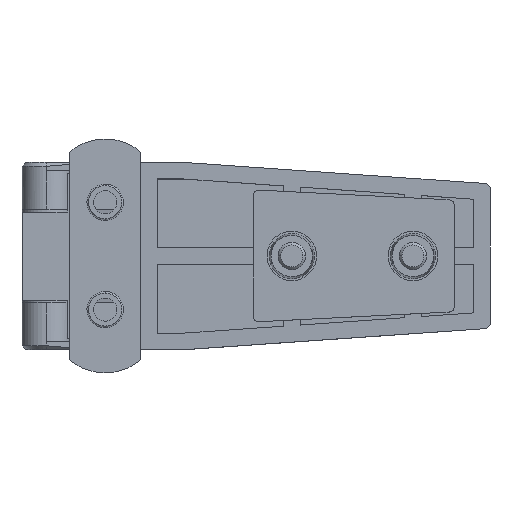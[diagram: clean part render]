
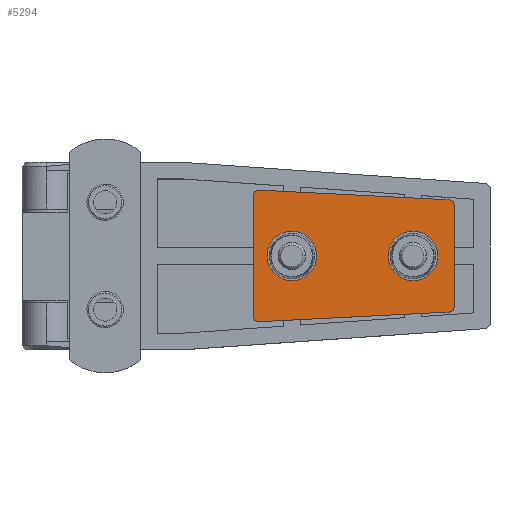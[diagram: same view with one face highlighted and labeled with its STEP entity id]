
A CAD part, top view. The second image highlights one B-rep face of the part: STEP entity #5294.
In plain terms, the highlighted planar face has unit normal (0, 0, 1).
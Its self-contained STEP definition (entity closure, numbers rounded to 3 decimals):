
#721 = CARTESIAN_POINT ( 'NONE',  ( 7.668, -10.948, 1.5 ) ) ;
#749 = CARTESIAN_POINT ( 'NONE',  ( 7.668, 10.948, 1.5 ) ) ;
#750 = DIRECTION ( 'NONE',  ( -1., 0., 0. ) ) ;
#751 = DIRECTION ( 'NONE',  ( 0., 0., 1. ) ) ;
#752 = CARTESIAN_POINT ( 'NONE',  ( 6.668, 10.948, 1.5 ) ) ;
#753 = AXIS2_PLACEMENT_3D ( 'NONE', #752, #751, #750 ) ;
#755 = CIRCLE ( 'NONE', #753, 1. ) ;
#779 = DIRECTION ( 'NONE',  ( -1., 0., 0. ) ) ;
#780 = DIRECTION ( 'NONE',  ( 0., 0., 1. ) ) ;
#781 = CARTESIAN_POINT ( 'NONE',  ( 6.668, -10.948, 1.5 ) ) ;
#782 = AXIS2_PLACEMENT_3D ( 'NONE', #781, #780, #779 ) ;
#783 = CIRCLE ( 'NONE', #782, 1. ) ;
#803 = DIRECTION ( 'NONE',  ( 0.999, -0.051, 0. ) ) ;
#804 = VECTOR ( 'NONE', #803, 1000. ) ;
#805 = CARTESIAN_POINT ( 'NONE',  ( -27.883, -10.198, 1.5 ) ) ;
#806 = LINE ( 'NONE', #805, #804 ) ;
#808 = DIRECTION ( 'NONE',  ( 0., 1., 0. ) ) ;
#809 = VECTOR ( 'NONE', #808, 1000. ) ;
#810 = CARTESIAN_POINT ( 'NONE',  ( 7.668, 10.15, 1.5 ) ) ;
#811 = LINE ( 'NONE', #810, #809 ) ;
#3835 = CARTESIAN_POINT ( 'NONE',  ( -25.832, 0., 1.5 ) ) ;
#3861 = CARTESIAN_POINT ( 'NONE',  ( 5.168, 0., 1.5 ) ) ;
#3862 = CARTESIAN_POINT ( 'NONE',  ( -3.832, 0., 1.5 ) ) ;
#4072 = CARTESIAN_POINT ( 'NONE',  ( -27.883, -10.198, 1.5 ) ) ;
#4073 = DIRECTION ( 'NONE',  ( -1., 0., 0. ) ) ;
#4074 = DIRECTION ( 'NONE',  ( 0., 0., 1. ) ) ;
#4075 = AXIS2_PLACEMENT_3D ( 'NONE', #4081, #4074, #4073 ) ;
#4076 = CIRCLE ( 'NONE', #4075, 1. ) ;
#4081 = CARTESIAN_POINT ( 'NONE',  ( -27.832, -9.199, 1.5 ) ) ;
#4117 = DIRECTION ( 'NONE',  ( 0., -1., 0. ) ) ;
#4118 = VECTOR ( 'NONE', #4117, 1000. ) ;
#4119 = CARTESIAN_POINT ( 'NONE',  ( -28.832, 10.15, 1.5 ) ) ;
#4120 = LINE ( 'NONE', #4119, #4118 ) ;
#4357 = CARTESIAN_POINT ( 'NONE',  ( -16.832, 0., 1.5 ) ) ;
#4366 = CARTESIAN_POINT ( 'NONE',  ( 6.617, -11.947, 1.5 ) ) ;
#4382 = DIRECTION ( 'NONE',  ( -1., 0., 0. ) ) ;
#4383 = DIRECTION ( 'NONE',  ( 0., 0., -1. ) ) ;
#4384 = CARTESIAN_POINT ( 'NONE',  ( -21.332, 0., 1.5 ) ) ;
#4385 = AXIS2_PLACEMENT_3D ( 'NONE', #4384, #4383, #4382 ) ;
#4386 = CIRCLE ( 'NONE', #4385, 4.5 ) ;
#4387 = DIRECTION ( 'NONE',  ( -1., 0., 0. ) ) ;
#4388 = DIRECTION ( 'NONE',  ( 0., 0., -1. ) ) ;
#4389 = AXIS2_PLACEMENT_3D ( 'NONE', #4395, #4388, #4387 ) ;
#4390 = CIRCLE ( 'NONE', #4389, 4.5 ) ;
#4395 = CARTESIAN_POINT ( 'NONE',  ( 0.668, 0., 1.5 ) ) ;
#4420 = CARTESIAN_POINT ( 'NONE',  ( -28.832, -9.199, 1.5 ) ) ;
#4444 = CARTESIAN_POINT ( 'NONE',  ( 6.617, 11.947, 1.5 ) ) ;
#4445 = DIRECTION ( 'NONE',  ( -0.999, -0.051, 0. ) ) ;
#4446 = VECTOR ( 'NONE', #4445, 1000. ) ;
#4447 = CARTESIAN_POINT ( 'NONE',  ( 6.617, 11.947, 1.5 ) ) ;
#4448 = LINE ( 'NONE', #4447, #4446 ) ;
#4449 = CARTESIAN_POINT ( 'NONE',  ( -28.832, 9.199, 1.5 ) ) ;
#4450 = DIRECTION ( 'NONE',  ( -1., 0., 0. ) ) ;
#4451 = DIRECTION ( 'NONE',  ( 0., 0., 1. ) ) ;
#4452 = AXIS2_PLACEMENT_3D ( 'NONE', #4458, #4451, #4450 ) ;
#4453 = CIRCLE ( 'NONE', #4452, 1. ) ;
#4458 = CARTESIAN_POINT ( 'NONE',  ( -27.832, 9.199, 1.5 ) ) ;
#4496 = DIRECTION ( 'NONE',  ( -1., 0., 0. ) ) ;
#4497 = DIRECTION ( 'NONE',  ( 0., 0., -1. ) ) ;
#4498 = CARTESIAN_POINT ( 'NONE',  ( 0.668, 0., 1.5 ) ) ;
#4499 = AXIS2_PLACEMENT_3D ( 'NONE', #4498, #4497, #4496 ) ;
#4500 = CIRCLE ( 'NONE', #4499, 4.5 ) ;
#4501 = CARTESIAN_POINT ( 'NONE',  ( -27.883, 10.198, 1.5 ) ) ;
#5238 = ORIENTED_EDGE ( 'NONE', *, *, #7196, .T. ) ;
#5239 = ORIENTED_EDGE ( 'NONE', *, *, #7163, .T. ) ;
#5270 = EDGE_CURVE ( 'NONE', #6939, #7158, #8021, .T. ) ;
#5294 = ADVANCED_FACE ( 'NONE', ( #7977, #7989, #8011 ), #7950, .T. ) ;
#5295 = EDGE_LOOP ( 'NONE', ( #5296, #5297 ) ) ;
#5296 = ORIENTED_EDGE ( 'NONE', *, *, #5270, .T. ) ;
#5297 = ORIENTED_EDGE ( 'NONE', *, *, #7164, .T. ) ;
#5298 = EDGE_LOOP ( 'NONE', ( #5299, #5300, #5301, #5302, #5303, #5304, #5305, #5306 ) ) ;
#5299 = ORIENTED_EDGE ( 'NONE', *, *, #6103, .T. ) ;
#5300 = ORIENTED_EDGE ( 'NONE', *, *, #6089, .T. ) ;
#5301 = ORIENTED_EDGE ( 'NONE', *, *, #7189, .T. ) ;
#5302 = ORIENTED_EDGE ( 'NONE', *, *, #7187, .T. ) ;
#5303 = ORIENTED_EDGE ( 'NONE', *, *, #7049, .T. ) ;
#5304 = ORIENTED_EDGE ( 'NONE', *, *, #7040, .T. ) ;
#5305 = ORIENTED_EDGE ( 'NONE', *, *, #6106, .T. ) ;
#5306 = ORIENTED_EDGE ( 'NONE', *, *, #6093, .T. ) ;
#5307 = EDGE_LOOP ( 'NONE', ( #5238, #5239 ) ) ;
#6085 = VERTEX_POINT ( 'NONE', #721 ) ;
#6089 = EDGE_CURVE ( 'NONE', #6091, #7191, #755, .T. ) ;
#6091 = VERTEX_POINT ( 'NONE', #749 ) ;
#6093 = EDGE_CURVE ( 'NONE', #7153, #6085, #783, .T. ) ;
#6103 = EDGE_CURVE ( 'NONE', #6085, #6091, #811, .T. ) ;
#6106 = EDGE_CURVE ( 'NONE', #7041, #7153, #806, .T. ) ;
#6939 = VERTEX_POINT ( 'NONE', #3835 ) ;
#6952 = VERTEX_POINT ( 'NONE', #3862 ) ;
#6954 = VERTEX_POINT ( 'NONE', #3861 ) ;
#7040 = EDGE_CURVE ( 'NONE', #7182, #7041, #4076, .T. ) ;
#7041 = VERTEX_POINT ( 'NONE', #4072 ) ;
#7049 = EDGE_CURVE ( 'NONE', #7188, #7182, #4120, .T. ) ;
#7153 = VERTEX_POINT ( 'NONE', #4366 ) ;
#7158 = VERTEX_POINT ( 'NONE', #4357 ) ;
#7163 = EDGE_CURVE ( 'NONE', #6954, #6952, #4390, .T. ) ;
#7164 = EDGE_CURVE ( 'NONE', #7158, #6939, #4386, .T. ) ;
#7182 = VERTEX_POINT ( 'NONE', #4420 ) ;
#7187 = EDGE_CURVE ( 'NONE', #7194, #7188, #4453, .T. ) ;
#7188 = VERTEX_POINT ( 'NONE', #4449 ) ;
#7189 = EDGE_CURVE ( 'NONE', #7191, #7194, #4448, .T. ) ;
#7191 = VERTEX_POINT ( 'NONE', #4444 ) ;
#7194 = VERTEX_POINT ( 'NONE', #4501 ) ;
#7196 = EDGE_CURVE ( 'NONE', #6952, #6954, #4500, .T. ) ;
#7932 = AXIS2_PLACEMENT_3D ( 'NONE', #7963, #7962, #7965 ) ;
#7950 = PLANE ( 'NONE',  #7932 ) ;
#7962 = DIRECTION ( 'NONE',  ( 0., 0., 1. ) ) ;
#7963 = CARTESIAN_POINT ( 'NONE',  ( -28.832, 10.15, 1.5 ) ) ;
#7965 = DIRECTION ( 'NONE',  ( 1., 0., 0. ) ) ;
#7977 = FACE_BOUND ( 'NONE', #5295, .T. ) ;
#7982 = DIRECTION ( 'NONE',  ( -1., 0., 0. ) ) ;
#7983 = DIRECTION ( 'NONE',  ( 0., 0., -1. ) ) ;
#7989 = FACE_OUTER_BOUND ( 'NONE', #5298, .T. ) ;
#8011 = FACE_BOUND ( 'NONE', #5307, .T. ) ;
#8019 = AXIS2_PLACEMENT_3D ( 'NONE', #8020, #7983, #7982 ) ;
#8020 = CARTESIAN_POINT ( 'NONE',  ( -21.332, 0., 1.5 ) ) ;
#8021 = CIRCLE ( 'NONE', #8019, 4.5 ) ;
